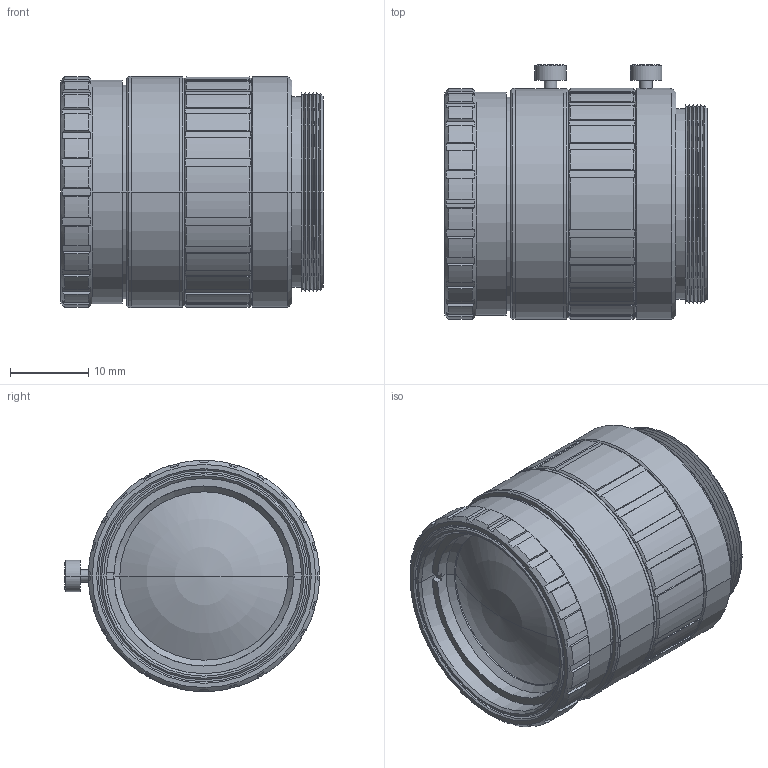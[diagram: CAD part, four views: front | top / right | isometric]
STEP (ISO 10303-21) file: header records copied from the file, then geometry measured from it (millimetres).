
FILE_DESCRIPTION(('LS-FFL-0116'),'2;1');
FILE_NAME('LS-FFL-0116.stp','2026-10-15T21:51:37',('LumaSpec Vision'),('LumaSpec Vision'),'LumaSpec Vision','LumaSpec Vision','');
FILE_SCHEMA(('AUTOMOTIVE_DESIGN { 1 0 10303 214 1 1 1 1 }'));
Length unit declared in the file: millimetre
Products named in the file (1): LS-FFL-0116
Bounding box: 33.5 x 32.55 x 29.5 mm (x, y, z)
Volume: 19291.7 mm3; surface area: 8488.4 mm2
Topology: 1 solids, 1 shells, 349 faces, 916 edges, 586 vertices
Faces by surface type: cylinder 140, plane 135, cone 70, sphere 4
Entity records: 32424 total; most frequent: CARTESIAN_POINT 14748, DIRECTION 3192, ORIENTED_EDGE 1824, PCURVE 1824, DEFINITIONAL_REPRESENTATION 1824, LINE 1656, VECTOR 1656, EDGE_CURVE 912
